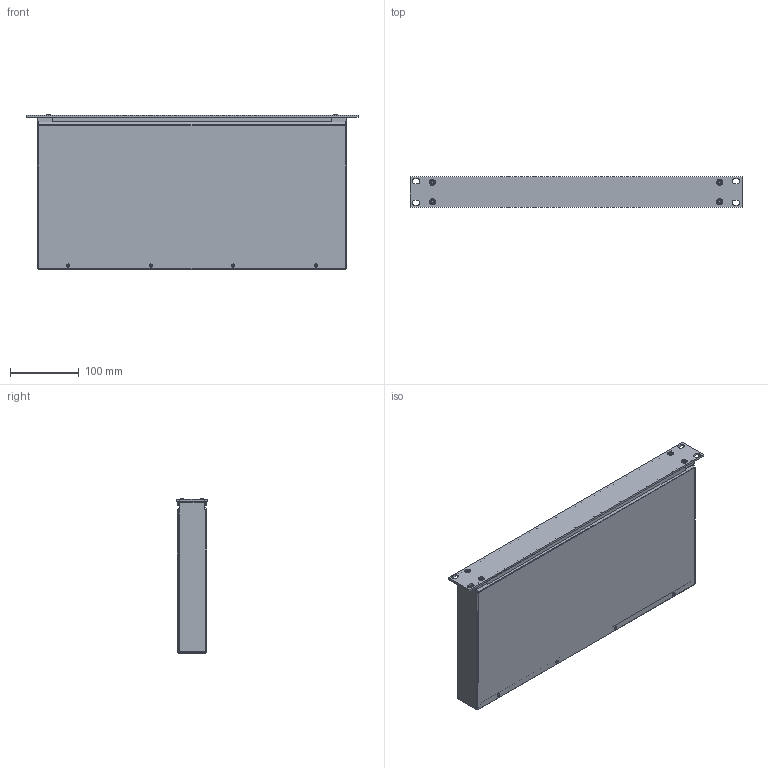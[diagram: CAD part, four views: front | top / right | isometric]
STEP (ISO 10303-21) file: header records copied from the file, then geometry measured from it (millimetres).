
FILE_DESCRIPTION(('STEP AP242'),'1');
FILE_NAME('20860120.stp','2019-08-01T12:54:45',('TraceParts'),('TraceParts S.A.'),'Spatial InterOp 3D',' ',' ');
FILE_SCHEMA(('AP242_MANAGED_MODEL_BASED_3D_ENGINEERING_MIM_LF {1 0 10303 442 1 1 4}'));
Length unit declared in the file: millimetre
Products named in the file (1): 20860120_1
Bounding box: 482.6 x 43.65 x 224.96 mm (x, y, z)
Volume: 316996.5 mm3; surface area: 560714.2 mm2
Topology: 20 solids, 20 shells, 972 faces, 2340 edges, 1432 vertices
Faces by surface type: bspline 972
Entity records: 42172 total; most frequent: CARTESIAN_POINT 19158, ORIENTED_EDGE 4448, EDGE_CURVE 2224, PRESENTATION_STYLE_ASSIGNMENT 1540, COLOUR_RGB 1540, VERTEX_POINT 1376, STYLED_ITEM 1320, B_SPLINE_CURVE_WITH_KNOTS 1262
